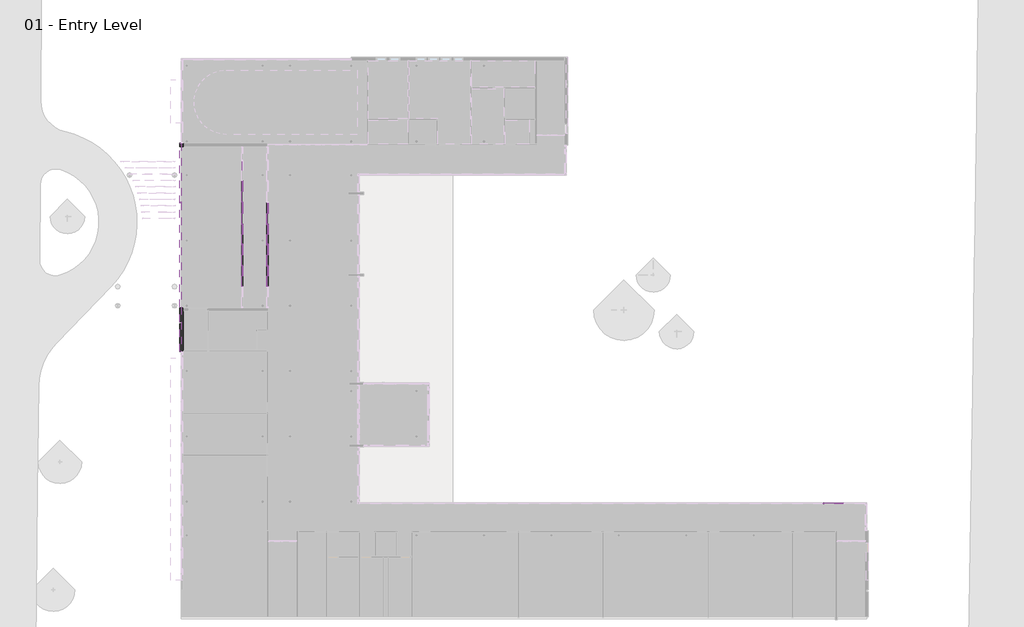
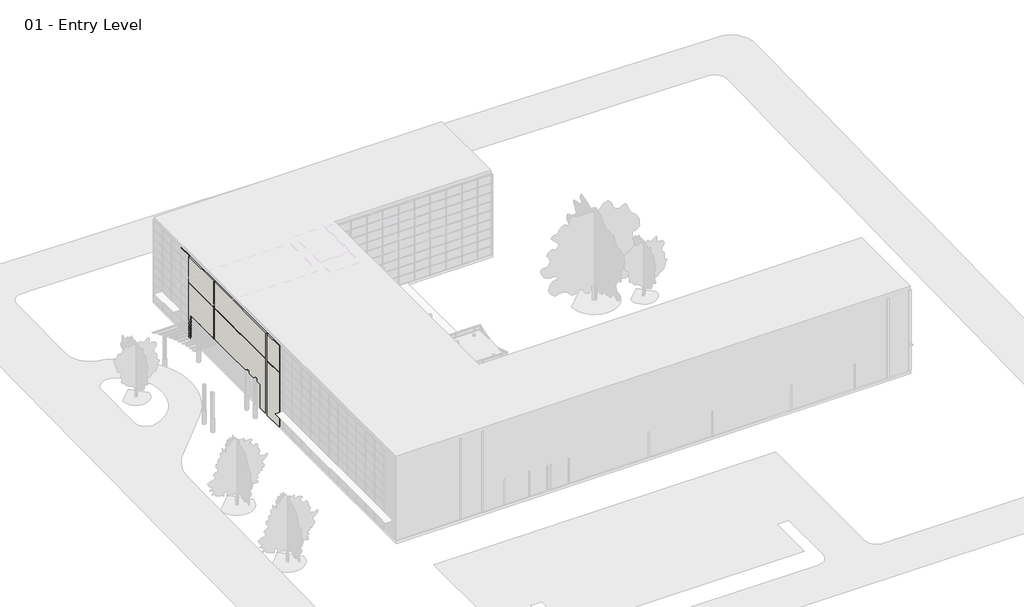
# One storey, part 22 of 34: 75 members, 36 plates, 3 doors, 2 proxies, 1 wall.
"""IFC4 building model written with IfcOpenShell, lengths in millimetres."""

from ifc_helpers import new_model, si_unit, frame, origin, place, context, project, spatial, polyline, outline, extrude, faceted_brep, transform, mapped, element, save
from components import curtain_wall_dbl_glass_curtain_wall_dbl_glass_d7d74fe3, member_2b49869a, member_18e22e2d, member_9e90ae50, member_391b434c, member_995c57f6, member_5d67b9fc, member_0a82c195, member_a6658832, member_b37ae9b7, member_f95d5bf5, member_ec52078f, system_panel_glazed_1b9d6098, system_panel_glazed_70da479d, system_panel_glazed_c64d999e, system_panel_glazed_ebbf215a, system_panel_glazed_d3a4a7cd, system_panel_glazed_76019dd7, system_panel_glazed_96e4dd87, system_panel_glazed_3ba8046e, system_panel_glazed_56110c51, system_panel_glazed_266ebcb8

model = new_model("IFC4")

# Units and contexts
model_context = context("Model", 3, world=origin())
ifc_project = project(units=[si_unit("LENGTHUNIT", "METRE", prefix="MILLI")], contexts=[model_context])

# Site, building, storey
site = spatial("IfcSite", under=ifc_project)
building = spatial("IfcBuilding", under=site)
storey = spatial("IfcBuildingStorey", under=building, Name="01 - Entry Level", Elevation=0.0)

# Proxies
placement = place(None, origin())
element("IfcBuildingElementProxy", 1, Name="Reveal", ObjectType="Reveal", at=placement, inside=storey, context=model_context, shape_type="SweptSolid", body=[
    extrude(outline(polyline([(-27.6542524, 45735.8), (124.7457476, 45735.8), (124.7457476, 25631.7), (-27.6542524, 25631.7), (-27.6542524, 45735.8)])), frame((0.0, 0.0, 7315.2), z_axis=(0.0, 0.0, 1.0), x_axis=(1.0, 0.0, 0.0)), (0.0, 0.0, 1.0), 152.4),
])
element("IfcBuildingElementProxy", 2, Name="Reveal", ObjectType="Reveal", at=placement, inside=storey, context=model_context, shape_type="SweptSolid", body=[
    extrude(outline(polyline([(-58.1342524, 40097.0), (124.7457476, 40097.0), (124.7457476, 39944.6), (-58.1342524, 39944.6), (-58.1342524, 40097.0)])), frame((0.0, 0.0, 3200.4), z_axis=(0.0, 0.0, 1.0), x_axis=(1.0, 0.0, 0.0)), (0.0, 0.0, 1.0), 7772.4),
])

# Doors
curtain_wall_dbl_glass_curtain_wall_dbl_glass_shape = curtain_wall_dbl_glass_curtain_wall_dbl_glass_d7d74fe3(model_context)
element("IfcDoor", 3, ObjectType="Curtain Wall Dbl Glass : Curtain Wall Dbl Glass", at=placement, inside=storey, context=model_context, shape_type="MappedRepresentation", body=[
    mapped(curtain_wall_dbl_glass_curtain_wall_dbl_glass_shape, transform((5982.6207476, 38976.225, 0.0), x_axis=(0.0, 1.0, 0.0), y_axis=(-1.0, 0.0, 0.0), z_axis=(0.0, 0.0, 1.0))),
])
element("IfcDoor", 4, ObjectType="Curtain Wall Dbl Glass : Curtain Wall Dbl Glass", at=placement, inside=storey, context=model_context, shape_type="MappedRepresentation", body=[
    mapped(curtain_wall_dbl_glass_curtain_wall_dbl_glass_shape, transform((5982.6207476, 41071.725, 0.0), x_axis=(0.0, 1.0, 0.0), y_axis=(-1.0, 0.0, 0.0), z_axis=(0.0, 0.0, 1.0))),
])
element("IfcDoor", 5, ObjectType="Curtain Wall Dbl Glass : Curtain Wall Dbl Glass", at=placement, inside=storey, context=model_context, shape_type="MappedRepresentation", body=[
    mapped(curtain_wall_dbl_glass_curtain_wall_dbl_glass_shape, transform((8421.0207476, 38976.225, 0.0), x_axis=(0.0, 1.0, 0.0), y_axis=(-1.0, 0.0, 0.0), z_axis=(0.0, 0.0, 1.0))),
])

# Members
member_shape = member_2b49869a(model_context)
element("IfcMember", 6, ObjectType="Rectangular Mullion : 2.5\" x 5\" rectangular", at=placement, inside=storey, context=model_context, shape_type="MappedRepresentation", body=[
    mapped(member_shape, transform((62040.4207476, 11001.3, 9753.6), x_axis=(-1.0, 0.0, 0.0), y_axis=(0.0, 1.0, 0.0), z_axis=(0.0, 0.0, -1.0))),
])
member_2_shape = member_18e22e2d(model_context)
element("IfcMember", 7, ObjectType="Rectangular Mullion : 2.5\" x 5\" rectangular", at=placement, inside=storey, context=model_context, shape_type="MappedRepresentation", body=[
    mapped(member_2_shape, transform((5982.6207476, 33927.975, 2438.4), x_axis=(0.0, 1.0, 0.0), y_axis=(1.0, 0.0, 0.0), z_axis=(0.0, 0.0, -1.0))),
])
element("IfcMember", 8, ObjectType="Rectangular Mullion : 2.5\" x 5\" rectangular", at=placement, inside=storey, context=model_context, shape_type="MappedRepresentation", body=[
    mapped(member_2_shape, transform((5982.6207476, 35959.975, 2438.4), x_axis=(0.0, 1.0, 0.0), y_axis=(1.0, 0.0, 0.0), z_axis=(0.0, 0.0, -1.0))),
])
element("IfcMember", 9, ObjectType="Rectangular Mullion : 2.5\" x 5\" rectangular", at=placement, inside=storey, context=model_context, shape_type="MappedRepresentation", body=[
    mapped(member_2_shape, transform((5982.6207476, 37928.475, 2438.4), x_axis=(0.0, 1.0, 0.0), y_axis=(1.0, 0.0, 0.0), z_axis=(0.0, 0.0, -1.0))),
])
element("IfcMember", 10, ObjectType="Rectangular Mullion : 2.5\" x 5\" rectangular", at=placement, inside=storey, context=model_context, shape_type="MappedRepresentation", body=[
    mapped(member_2_shape, transform((5982.6207476, 40023.975, 2438.4), x_axis=(0.0, 1.0, 0.0), y_axis=(1.0, 0.0, 0.0), z_axis=(0.0, 0.0, -1.0))),
])
element("IfcMember", 11, ObjectType="Rectangular Mullion : 2.5\" x 5\" rectangular", at=placement, inside=storey, context=model_context, shape_type="MappedRepresentation", body=[
    mapped(member_2_shape, transform((5982.6207476, 42119.475, 2438.4), x_axis=(0.0, 1.0, 0.0), y_axis=(1.0, 0.0, 0.0), z_axis=(0.0, 0.0, -1.0))),
])
element("IfcMember", 12, ObjectType="Rectangular Mullion : 2.5\" x 5\" rectangular", at=placement, inside=storey, context=model_context, shape_type="MappedRepresentation", body=[
    mapped(member_2_shape, transform((8421.0207476, 33927.975, 2438.4), x_axis=(0.0, 1.0, 0.0), y_axis=(1.0, 0.0, 0.0), z_axis=(0.0, 0.0, -1.0))),
])
element("IfcMember", 13, ObjectType="Rectangular Mullion : 2.5\" x 5\" rectangular", at=placement, inside=storey, context=model_context, shape_type="MappedRepresentation", body=[
    mapped(member_2_shape, transform((8421.0207476, 35959.975, 2438.4), x_axis=(0.0, 1.0, 0.0), y_axis=(1.0, 0.0, 0.0), z_axis=(0.0, 0.0, -1.0))),
])
element("IfcMember", 14, ObjectType="Rectangular Mullion : 2.5\" x 5\" rectangular", at=placement, inside=storey, context=model_context, shape_type="MappedRepresentation", body=[
    mapped(member_2_shape, transform((8421.0207476, 37928.475, 2438.4), x_axis=(0.0, 1.0, 0.0), y_axis=(1.0, 0.0, 0.0), z_axis=(0.0, 0.0, -1.0))),
])
member_3_shape = member_9e90ae50(model_context)
element("IfcMember", 15, ObjectType="Rectangular Mullion : 2.5\" x 5\" rectangular", at=placement, inside=storey, context=model_context, shape_type="MappedRepresentation", body=[
    mapped(member_3_shape, transform((62072.1707476, 11001.3, 9753.6), x_axis=(0.0, 0.0, 1.0), y_axis=(0.0, 1.0, 0.0), z_axis=(-1.0, 0.0, 0.0))),
])
element("IfcMember", 16, ObjectType="Rectangular Mullion : 2.5\" x 5\" rectangular", at=placement, inside=storey, context=model_context, shape_type="MappedRepresentation", body=[
    mapped(member_shape, transform((62040.4207476, 11001.3, 0.0), x_axis=(-1.0, 0.0, 0.0), y_axis=(0.0, 1.0, 0.0), z_axis=(0.0, 0.0, -1.0))),
])
element("IfcMember", 17, ObjectType="Rectangular Mullion : 2.5\" x 5\" rectangular", at=placement, inside=storey, context=model_context, shape_type="MappedRepresentation", body=[
    mapped(member_shape, transform((62040.4207476, 11001.3, 1219.2), x_axis=(-1.0, 0.0, 0.0), y_axis=(0.0, 1.0, 0.0), z_axis=(0.0, 0.0, -1.0))),
])
element("IfcMember", 18, ObjectType="Rectangular Mullion : 2.5\" x 5\" rectangular", at=placement, inside=storey, context=model_context, shape_type="MappedRepresentation", body=[
    mapped(member_shape, transform((62040.4207476, 11001.3, 2438.4), x_axis=(-1.0, 0.0, 0.0), y_axis=(0.0, 1.0, 0.0), z_axis=(0.0, 0.0, -1.0))),
])
element("IfcMember", 19, ObjectType="Rectangular Mullion : 2.5\" x 5\" rectangular", at=placement, inside=storey, context=model_context, shape_type="MappedRepresentation", body=[
    mapped(member_shape, transform((62040.4207476, 11001.3, 3657.6), x_axis=(-1.0, 0.0, 0.0), y_axis=(0.0, 1.0, 0.0), z_axis=(0.0, 0.0, -1.0))),
])
element("IfcMember", 20, ObjectType="Rectangular Mullion : 2.5\" x 5\" rectangular", at=placement, inside=storey, context=model_context, shape_type="MappedRepresentation", body=[
    mapped(member_shape, transform((62040.4207476, 11001.3, 4876.8), x_axis=(-1.0, 0.0, 0.0), y_axis=(0.0, 1.0, 0.0), z_axis=(0.0, 0.0, -1.0))),
])
element("IfcMember", 21, ObjectType="Rectangular Mullion : 2.5\" x 5\" rectangular", at=placement, inside=storey, context=model_context, shape_type="MappedRepresentation", body=[
    mapped(member_shape, transform((62040.4207476, 11001.3, 6096.0), x_axis=(-1.0, 0.0, 0.0), y_axis=(0.0, 1.0, 0.0), z_axis=(0.0, 0.0, -1.0))),
])
element("IfcMember", 22, ObjectType="Rectangular Mullion : 2.5\" x 5\" rectangular", at=placement, inside=storey, context=model_context, shape_type="MappedRepresentation", body=[
    mapped(member_shape, transform((62040.4207476, 11001.3, 7315.2), x_axis=(-1.0, 0.0, 0.0), y_axis=(0.0, 1.0, 0.0), z_axis=(0.0, 0.0, -1.0))),
])
element("IfcMember", 23, ObjectType="Rectangular Mullion : 2.5\" x 5\" rectangular", at=placement, inside=storey, context=model_context, shape_type="MappedRepresentation", body=[
    mapped(member_shape, transform((62040.4207476, 11001.3, 8534.4), x_axis=(-1.0, 0.0, 0.0), y_axis=(0.0, 1.0, 0.0), z_axis=(0.0, 0.0, -1.0))),
])
member_4_shape = member_391b434c(model_context)
element("IfcMember", 24, ObjectType="Rectangular Mullion : 2.5\" x 5\" rectangular", at=placement, inside=storey, context=model_context, shape_type="MappedRepresentation", body=[
    mapped(member_4_shape, transform((5982.6207476, 33896.225, 3403.6), x_axis=(0.0, 0.0, 1.0), y_axis=(1.0, 0.0, 0.0), z_axis=(0.0, 1.0, 0.0))),
])
element("IfcMember", 25, ObjectType="Rectangular Mullion : 2.5\" x 5\" rectangular", at=placement, inside=storey, context=model_context, shape_type="MappedRepresentation", body=[
    mapped(member_4_shape, transform((5982.6207476, 35928.225, 3403.6), x_axis=(0.0, 0.0, 1.0), y_axis=(1.0, 0.0, 0.0), z_axis=(0.0, 1.0, 0.0))),
])
element("IfcMember", 26, ObjectType="Rectangular Mullion : 2.5\" x 5\" rectangular", at=placement, inside=storey, context=model_context, shape_type="MappedRepresentation", body=[
    mapped(member_4_shape, transform((8421.0207476, 33896.225, 3403.6), x_axis=(0.0, 0.0, 1.0), y_axis=(1.0, 0.0, 0.0), z_axis=(0.0, 1.0, 0.0))),
])
element("IfcMember", 27, ObjectType="Rectangular Mullion : 2.5\" x 5\" rectangular", at=placement, inside=storey, context=model_context, shape_type="MappedRepresentation", body=[
    mapped(member_4_shape, transform((8421.0207476, 35928.225, 3403.6), x_axis=(0.0, 0.0, 1.0), y_axis=(1.0, 0.0, 0.0), z_axis=(0.0, 1.0, 0.0))),
])
element("IfcMember", 28, ObjectType="Rectangular Mullion : 2.5\" x 5\" rectangular", at=placement, inside=storey, context=model_context, shape_type="MappedRepresentation", body=[
    mapped(member_4_shape, transform((5982.6207476, 33959.725, 0.0), x_axis=(0.0, 0.0, -1.0), y_axis=(1.0, 0.0, 0.0), z_axis=(0.0, -1.0, 0.0))),
])
element("IfcMember", 29, ObjectType="Rectangular Mullion : 2.5\" x 5\" rectangular", at=placement, inside=storey, context=model_context, shape_type="MappedRepresentation", body=[
    mapped(member_4_shape, transform((8421.0207476, 33959.725, 0.0), x_axis=(0.0, 0.0, -1.0), y_axis=(1.0, 0.0, 0.0), z_axis=(0.0, -1.0, 0.0))),
])
element("IfcMember", 30, ObjectType="Rectangular Mullion : 2.5\" x 5\" rectangular", at=placement, inside=storey, context=model_context, shape_type="MappedRepresentation", body=[
    mapped(member_3_shape, transform((5982.6207476, 33896.225, 1219.2), x_axis=(0.0, 0.0, 1.0), y_axis=(1.0, 0.0, 0.0), z_axis=(0.0, 1.0, 0.0))),
])
element("IfcMember", 31, ObjectType="Rectangular Mullion : 2.5\" x 5\" rectangular", at=placement, inside=storey, context=model_context, shape_type="MappedRepresentation", body=[
    mapped(member_3_shape, transform((5982.6207476, 35928.225, 1219.2), x_axis=(0.0, 0.0, 1.0), y_axis=(1.0, 0.0, 0.0), z_axis=(0.0, 1.0, 0.0))),
])
element("IfcMember", 32, ObjectType="Rectangular Mullion : 2.5\" x 5\" rectangular", at=placement, inside=storey, context=model_context, shape_type="MappedRepresentation", body=[
    mapped(member_3_shape, transform((5982.6207476, 33896.225, 2438.4), x_axis=(0.0, 0.0, 1.0), y_axis=(1.0, 0.0, 0.0), z_axis=(0.0, 1.0, 0.0))),
])
element("IfcMember", 33, ObjectType="Rectangular Mullion : 2.5\" x 5\" rectangular", at=placement, inside=storey, context=model_context, shape_type="MappedRepresentation", body=[
    mapped(member_3_shape, transform((5982.6207476, 35928.225, 2438.4), x_axis=(0.0, 0.0, 1.0), y_axis=(1.0, 0.0, 0.0), z_axis=(0.0, 1.0, 0.0))),
])
element("IfcMember", 34, ObjectType="Rectangular Mullion : 2.5\" x 5\" rectangular", at=placement, inside=storey, context=model_context, shape_type="MappedRepresentation", body=[
    mapped(member_3_shape, transform((8421.0207476, 33896.225, 1219.2), x_axis=(0.0, 0.0, 1.0), y_axis=(1.0, 0.0, 0.0), z_axis=(0.0, 1.0, 0.0))),
])
element("IfcMember", 35, ObjectType="Rectangular Mullion : 2.5\" x 5\" rectangular", at=placement, inside=storey, context=model_context, shape_type="MappedRepresentation", body=[
    mapped(member_3_shape, transform((8421.0207476, 35928.225, 1219.2), x_axis=(0.0, 0.0, 1.0), y_axis=(1.0, 0.0, 0.0), z_axis=(0.0, 1.0, 0.0))),
])
element("IfcMember", 36, ObjectType="Rectangular Mullion : 2.5\" x 5\" rectangular", at=placement, inside=storey, context=model_context, shape_type="MappedRepresentation", body=[
    mapped(member_3_shape, transform((8421.0207476, 33896.225, 2438.4), x_axis=(0.0, 0.0, 1.0), y_axis=(1.0, 0.0, 0.0), z_axis=(0.0, 1.0, 0.0))),
])
element("IfcMember", 37, ObjectType="Rectangular Mullion : 2.5\" x 5\" rectangular", at=placement, inside=storey, context=model_context, shape_type="MappedRepresentation", body=[
    mapped(member_3_shape, transform((8421.0207476, 35928.225, 2438.4), x_axis=(0.0, 0.0, 1.0), y_axis=(1.0, 0.0, 0.0), z_axis=(0.0, 1.0, 0.0))),
])
element("IfcMember", 38, ObjectType="Rectangular Mullion : 2.5\" x 5\" rectangular", at=placement, inside=storey, context=model_context, shape_type="MappedRepresentation", body=[
    mapped(member_shape, transform((5982.6207476, 33927.975, 0.0), x_axis=(0.0, 1.0, 0.0), y_axis=(1.0, 0.0, 0.0), z_axis=(0.0, 0.0, -1.0))),
])
element("IfcMember", 39, ObjectType="Rectangular Mullion : 2.5\" x 5\" rectangular", at=placement, inside=storey, context=model_context, shape_type="MappedRepresentation", body=[
    mapped(member_shape, transform((5982.6207476, 35959.975, 0.0), x_axis=(0.0, 1.0, 0.0), y_axis=(1.0, 0.0, 0.0), z_axis=(0.0, 0.0, -1.0))),
])
element("IfcMember", 40, ObjectType="Rectangular Mullion : 2.5\" x 5\" rectangular", at=placement, inside=storey, context=model_context, shape_type="MappedRepresentation", body=[
    mapped(member_shape, transform((5982.6207476, 37928.475, 0.0), x_axis=(0.0, 1.0, 0.0), y_axis=(1.0, 0.0, 0.0), z_axis=(0.0, 0.0, -1.0))),
])
element("IfcMember", 41, ObjectType="Rectangular Mullion : 2.5\" x 5\" rectangular", at=placement, inside=storey, context=model_context, shape_type="MappedRepresentation", body=[
    mapped(member_shape, transform((5982.6207476, 42119.475, 0.0), x_axis=(0.0, 1.0, 0.0), y_axis=(1.0, 0.0, 0.0), z_axis=(0.0, 0.0, -1.0))),
])
element("IfcMember", 42, ObjectType="Rectangular Mullion : 2.5\" x 5\" rectangular", at=placement, inside=storey, context=model_context, shape_type="MappedRepresentation", body=[
    mapped(member_shape, transform((8421.0207476, 33927.975, 0.0), x_axis=(0.0, 1.0, 0.0), y_axis=(1.0, 0.0, 0.0), z_axis=(0.0, 0.0, -1.0))),
])
element("IfcMember", 43, ObjectType="Rectangular Mullion : 2.5\" x 5\" rectangular", at=placement, inside=storey, context=model_context, shape_type="MappedRepresentation", body=[
    mapped(member_shape, transform((8421.0207476, 35959.975, 0.0), x_axis=(0.0, 1.0, 0.0), y_axis=(1.0, 0.0, 0.0), z_axis=(0.0, 0.0, -1.0))),
])
element("IfcMember", 44, ObjectType="Rectangular Mullion : 2.5\" x 5\" rectangular", at=placement, inside=storey, context=model_context, shape_type="MappedRepresentation", body=[
    mapped(member_shape, transform((8421.0207476, 37928.475, 0.0), x_axis=(0.0, 1.0, 0.0), y_axis=(1.0, 0.0, 0.0), z_axis=(0.0, 0.0, -1.0))),
])
element("IfcMember", 45, ObjectType="Rectangular Mullion : 2.5\" x 5\" rectangular", at=placement, inside=storey, context=model_context, shape_type="MappedRepresentation", body=[
    mapped(member_shape, transform((5982.6207476, 40023.975, 0.0), x_axis=(0.0, 1.0, 0.0), y_axis=(1.0, 0.0, 0.0), z_axis=(0.0, 0.0, -1.0))),
])
member_5_shape = member_995c57f6(model_context)
element("IfcMember", 46, ObjectType="Rectangular Mullion : 2.5\" x 5\" rectangular", at=placement, inside=storey, context=model_context, shape_type="MappedRepresentation", body=[
    mapped(member_5_shape, transform((178.7207476, 45799.3, 10972.8), x_axis=(0.0, 0.0, 1.0), y_axis=(-1.0, 0.0, 0.0), z_axis=(0.0, -1.0, 0.0))),
])
member_6_shape = member_5d67b9fc(model_context)
element("IfcMember", 47, ObjectType="Rectangular Mullion : 2.5\" x 5\" rectangular", at=placement, inside=storey, context=model_context, shape_type="MappedRepresentation", body=[
    mapped(member_6_shape, transform((5982.6207476, 37928.475, 2165.35), x_axis=(0.0, 1.0, 0.0), y_axis=(1.0, 0.0, 0.0), z_axis=(0.0, 0.0, -1.0))),
])
element("IfcMember", 48, ObjectType="Rectangular Mullion : 2.5\" x 5\" rectangular", at=placement, inside=storey, context=model_context, shape_type="MappedRepresentation", body=[
    mapped(member_6_shape, transform((5982.6207476, 40023.975, 2165.35), x_axis=(0.0, 1.0, 0.0), y_axis=(1.0, 0.0, 0.0), z_axis=(0.0, 0.0, -1.0))),
])
element("IfcMember", 49, ObjectType="Rectangular Mullion : 2.5\" x 5\" rectangular", at=placement, inside=storey, context=model_context, shape_type="MappedRepresentation", body=[
    mapped(member_6_shape, transform((5982.6207476, 42119.475, 2165.35), x_axis=(0.0, 1.0, 0.0), y_axis=(1.0, 0.0, 0.0), z_axis=(0.0, 0.0, -1.0))),
])
element("IfcMember", 50, ObjectType="Rectangular Mullion : 2.5\" x 5\" rectangular", at=placement, inside=storey, context=model_context, shape_type="MappedRepresentation", body=[
    mapped(member_6_shape, transform((8421.0207476, 37928.475, 2165.35), x_axis=(0.0, 1.0, 0.0), y_axis=(1.0, 0.0, 0.0), z_axis=(0.0, 0.0, -1.0))),
])
element("IfcMember", 51, ObjectType="Rectangular Mullion : 2.5\" x 5\" rectangular", at=placement, inside=storey, context=model_context, shape_type="MappedRepresentation", body=[
    mapped(member_6_shape, transform((5982.6207476, 33927.975, 2165.35), x_axis=(0.0, 1.0, 0.0), y_axis=(1.0, 0.0, 0.0), z_axis=(0.0, 0.0, -1.0))),
])
element("IfcMember", 52, ObjectType="Rectangular Mullion : 2.5\" x 5\" rectangular", at=placement, inside=storey, context=model_context, shape_type="MappedRepresentation", body=[
    mapped(member_6_shape, transform((5982.6207476, 35959.975, 2165.35), x_axis=(0.0, 1.0, 0.0), y_axis=(1.0, 0.0, 0.0), z_axis=(0.0, 0.0, -1.0))),
])
element("IfcMember", 53, ObjectType="Rectangular Mullion : 2.5\" x 5\" rectangular", at=placement, inside=storey, context=model_context, shape_type="MappedRepresentation", body=[
    mapped(member_6_shape, transform((8421.0207476, 33927.975, 2165.35), x_axis=(0.0, 1.0, 0.0), y_axis=(1.0, 0.0, 0.0), z_axis=(0.0, 0.0, -1.0))),
])
element("IfcMember", 54, ObjectType="Rectangular Mullion : 2.5\" x 5\" rectangular", at=placement, inside=storey, context=model_context, shape_type="MappedRepresentation", body=[
    mapped(member_6_shape, transform((8421.0207476, 35959.975, 2165.35), x_axis=(0.0, 1.0, 0.0), y_axis=(1.0, 0.0, 0.0), z_axis=(0.0, 0.0, -1.0))),
])
member_7_shape = member_0a82c195(model_context)
element("IfcMember", 55, ObjectType="Rectangular Mullion : 2.5\" x 5\" rectangular", at=placement, inside=storey, context=model_context, shape_type="MappedRepresentation", body=[
    mapped(member_7_shape, transform((5982.6207476, 39992.225, 3403.6), x_axis=(0.0, 0.0, 1.0), y_axis=(1.0, 0.0, 0.0), z_axis=(0.0, 1.0, 0.0))),
])
element("IfcMember", 56, ObjectType="Rectangular Mullion : 2.5\" x 5\" rectangular", at=placement, inside=storey, context=model_context, shape_type="MappedRepresentation", body=[
    mapped(member_7_shape, transform((5982.6207476, 42087.725, 3403.6), x_axis=(0.0, 0.0, 1.0), y_axis=(1.0, 0.0, 0.0), z_axis=(0.0, 1.0, 0.0))),
])
element("IfcMember", 57, ObjectType="Rectangular Mullion : 2.5\" x 5\" rectangular", at=placement, inside=storey, context=model_context, shape_type="MappedRepresentation", body=[
    mapped(member_7_shape, transform((8421.0207476, 39992.225, 3403.6), x_axis=(0.0, 0.0, 1.0), y_axis=(1.0, 0.0, 0.0), z_axis=(0.0, 1.0, 0.0))),
])
member_8_shape = member_a6658832(model_context)
element("IfcMember", 58, ObjectType="Rectangular Mullion : 2.5\" x 5\" rectangular", at=placement, inside=storey, context=model_context, shape_type="MappedRepresentation", body=[
    mapped(member_8_shape, transform((5982.6207476, 37896.725, 3403.6), x_axis=(0.0, 0.0, 1.0), y_axis=(1.0, 0.0, 0.0), z_axis=(0.0, 1.0, 0.0))),
])
element("IfcMember", 59, ObjectType="Rectangular Mullion : 2.5\" x 5\" rectangular", at=placement, inside=storey, context=model_context, shape_type="MappedRepresentation", body=[
    mapped(member_8_shape, transform((8421.0207476, 37896.725, 3403.6), x_axis=(0.0, 0.0, 1.0), y_axis=(1.0, 0.0, 0.0), z_axis=(0.0, 1.0, 0.0))),
])
element("IfcMember", 60, ObjectType="Rectangular Mullion : 2.5\" x 5\" rectangular", at=placement, inside=storey, context=model_context, shape_type="MappedRepresentation", body=[
    mapped(member_8_shape, transform((5982.6207476, 35991.725, 0.0), x_axis=(0.0, 0.0, -1.0), y_axis=(1.0, 0.0, 0.0), z_axis=(0.0, -1.0, 0.0))),
])
element("IfcMember", 61, ObjectType="Rectangular Mullion : 2.5\" x 5\" rectangular", at=placement, inside=storey, context=model_context, shape_type="MappedRepresentation", body=[
    mapped(member_8_shape, transform((5982.6207476, 42151.225, 0.0), x_axis=(0.0, 0.0, -1.0), y_axis=(1.0, 0.0, 0.0), z_axis=(0.0, -1.0, 0.0))),
])
element("IfcMember", 62, ObjectType="Rectangular Mullion : 2.5\" x 5\" rectangular", at=placement, inside=storey, context=model_context, shape_type="MappedRepresentation", body=[
    mapped(member_8_shape, transform((8421.0207476, 35991.725, 0.0), x_axis=(0.0, 0.0, -1.0), y_axis=(1.0, 0.0, 0.0), z_axis=(0.0, -1.0, 0.0))),
])
member_9_shape = member_b37ae9b7(model_context)
element("IfcMember", 63, ObjectType="Rectangular Mullion : 2.5\" x 5\" rectangular", at=placement, inside=storey, context=model_context, shape_type="MappedRepresentation", body=[
    mapped(member_9_shape, transform((5982.6207476, 37896.725, 1219.2), x_axis=(0.0, 0.0, 1.0), y_axis=(1.0, 0.0, 0.0), z_axis=(0.0, 1.0, 0.0))),
])
element("IfcMember", 64, ObjectType="Rectangular Mullion : 2.5\" x 5\" rectangular", at=placement, inside=storey, context=model_context, shape_type="MappedRepresentation", body=[
    mapped(member_9_shape, transform((5982.6207476, 37896.725, 2438.4), x_axis=(0.0, 0.0, 1.0), y_axis=(1.0, 0.0, 0.0), z_axis=(0.0, 1.0, 0.0))),
])
element("IfcMember", 65, ObjectType="Rectangular Mullion : 2.5\" x 5\" rectangular", at=placement, inside=storey, context=model_context, shape_type="MappedRepresentation", body=[
    mapped(member_9_shape, transform((8421.0207476, 37896.725, 1219.2), x_axis=(0.0, 0.0, 1.0), y_axis=(1.0, 0.0, 0.0), z_axis=(0.0, 1.0, 0.0))),
])
element("IfcMember", 66, ObjectType="Rectangular Mullion : 2.5\" x 5\" rectangular", at=placement, inside=storey, context=model_context, shape_type="MappedRepresentation", body=[
    mapped(member_9_shape, transform((8421.0207476, 37896.725, 2438.4), x_axis=(0.0, 0.0, 1.0), y_axis=(1.0, 0.0, 0.0), z_axis=(0.0, 1.0, 0.0))),
])
member_10_shape = member_f95d5bf5(model_context)
element("IfcMember", 67, ObjectType="Rectangular Mullion : 2.5\" x 5\" rectangular", at=placement, inside=storey, context=model_context, shape_type="MappedRepresentation", body=[
    mapped(member_10_shape, transform((5982.6207476, 39992.225, 2438.4), x_axis=(0.0, 0.0, 1.0), y_axis=(1.0, 0.0, 0.0), z_axis=(0.0, 1.0, 0.0))),
])
element("IfcMember", 68, ObjectType="Rectangular Mullion : 2.5\" x 5\" rectangular", at=placement, inside=storey, context=model_context, shape_type="MappedRepresentation", body=[
    mapped(member_10_shape, transform((5982.6207476, 42087.725, 2438.4), x_axis=(0.0, 0.0, 1.0), y_axis=(1.0, 0.0, 0.0), z_axis=(0.0, 1.0, 0.0))),
])
element("IfcMember", 69, ObjectType="Rectangular Mullion : 2.5\" x 5\" rectangular", at=placement, inside=storey, context=model_context, shape_type="MappedRepresentation", body=[
    mapped(member_10_shape, transform((5982.6207476, 42087.725, 2165.35), x_axis=(0.0, 0.0, 1.0), y_axis=(1.0, 0.0, 0.0), z_axis=(0.0, 1.0, 0.0))),
])
element("IfcMember", 70, ObjectType="Rectangular Mullion : 2.5\" x 5\" rectangular", at=placement, inside=storey, context=model_context, shape_type="MappedRepresentation", body=[
    mapped(member_10_shape, transform((5982.6207476, 39992.225, 2165.35), x_axis=(0.0, 0.0, 1.0), y_axis=(1.0, 0.0, 0.0), z_axis=(0.0, 1.0, 0.0))),
])
element("IfcMember", 71, ObjectType="Rectangular Mullion : 2.5\" x 5\" rectangular", at=placement, inside=storey, context=model_context, shape_type="MappedRepresentation", body=[
    mapped(member_10_shape, transform((8421.0207476, 39992.225, 2438.4), x_axis=(0.0, 0.0, 1.0), y_axis=(1.0, 0.0, 0.0), z_axis=(0.0, 1.0, 0.0))),
])
element("IfcMember", 72, ObjectType="Rectangular Mullion : 2.5\" x 5\" rectangular", at=placement, inside=storey, context=model_context, shape_type="MappedRepresentation", body=[
    mapped(member_10_shape, transform((8421.0207476, 39992.225, 2165.35), x_axis=(0.0, 0.0, 1.0), y_axis=(1.0, 0.0, 0.0), z_axis=(0.0, 1.0, 0.0))),
])
member_11_shape = member_ec52078f(model_context)
element("IfcMember", 73, ObjectType="Rectangular Mullion : 2.5\" x 5\" rectangular", at=placement, inside=storey, context=model_context, shape_type="MappedRepresentation", body=[
    mapped(member_11_shape, transform((5982.6207476, 33927.975, 1219.2), x_axis=(0.0, 1.0, 0.0), y_axis=(1.0, 0.0, 0.0), z_axis=(0.0, 0.0, -1.0))),
])
element("IfcMember", 74, ObjectType="Rectangular Mullion : 2.5\" x 5\" rectangular", at=placement, inside=storey, context=model_context, shape_type="MappedRepresentation", body=[
    mapped(member_11_shape, transform((5982.6207476, 35959.975, 1219.2), x_axis=(0.0, 1.0, 0.0), y_axis=(1.0, 0.0, 0.0), z_axis=(0.0, 0.0, -1.0))),
])
element("IfcMember", 75, ObjectType="Rectangular Mullion : 2.5\" x 5\" rectangular", at=placement, inside=storey, context=model_context, shape_type="MappedRepresentation", body=[
    mapped(member_11_shape, transform((8421.0207476, 33927.975, 1219.2), x_axis=(0.0, 1.0, 0.0), y_axis=(1.0, 0.0, 0.0), z_axis=(0.0, 0.0, -1.0))),
])
element("IfcMember", 76, ObjectType="Rectangular Mullion : 2.5\" x 5\" rectangular", at=placement, inside=storey, context=model_context, shape_type="MappedRepresentation", body=[
    mapped(member_11_shape, transform((8421.0207476, 35959.975, 1219.2), x_axis=(0.0, 1.0, 0.0), y_axis=(1.0, 0.0, 0.0), z_axis=(0.0, 0.0, -1.0))),
])
element("IfcMember", 77, ObjectType="Rectangular Mullion : 2.5\" x 5\" rectangular", at=placement, inside=storey, context=model_context, shape_type="MappedRepresentation", body=[
    mapped(member_11_shape, transform((5982.6207476, 40023.975, 1219.2), x_axis=(0.0, 1.0, 0.0), y_axis=(1.0, 0.0, 0.0), z_axis=(0.0, 0.0, -1.0))),
])
element("IfcMember", 78, ObjectType="Rectangular Mullion : 2.5\" x 5\" rectangular", at=placement, inside=storey, context=model_context, shape_type="MappedRepresentation", body=[
    mapped(member_11_shape, transform((5982.6207476, 37928.475, 1219.2), x_axis=(0.0, 1.0, 0.0), y_axis=(1.0, 0.0, 0.0), z_axis=(0.0, 0.0, -1.0))),
])
element("IfcMember", 79, ObjectType="Rectangular Mullion : 2.5\" x 5\" rectangular", at=placement, inside=storey, context=model_context, shape_type="MappedRepresentation", body=[
    mapped(member_11_shape, transform((5982.6207476, 42119.475, 1219.2), x_axis=(0.0, 1.0, 0.0), y_axis=(1.0, 0.0, 0.0), z_axis=(0.0, 0.0, -1.0))),
])
element("IfcMember", 80, ObjectType="Rectangular Mullion : 2.5\" x 5\" rectangular", at=placement, inside=storey, context=model_context, shape_type="MappedRepresentation", body=[
    mapped(member_11_shape, transform((8421.0207476, 37928.475, 1219.2), x_axis=(0.0, 1.0, 0.0), y_axis=(1.0, 0.0, 0.0), z_axis=(0.0, 0.0, -1.0))),
])

# Plates
system_panel_glazed_shape = system_panel_glazed_1b9d6098(model_context)
element("IfcPlate", 81, ObjectType="System Panel : Glazed", at=placement, inside=storey, context=model_context, shape_type="MappedRepresentation", body=[
    mapped(system_panel_glazed_shape, transform((63056.4207476, 11001.3, 63.5), x_axis=(-1.0, 0.0, 0.0), y_axis=(0.0, -1.0, 0.0), z_axis=(0.0, 0.0, 1.0))),
])
element("IfcPlate", 82, ObjectType="System Panel : Glazed", at=placement, inside=storey, context=model_context, shape_type="MappedRepresentation", body=[
    mapped(system_panel_glazed_shape, transform((63056.4207476, 11001.3, 9785.35), x_axis=(-1.0, 0.0, 0.0), y_axis=(0.0, -1.0, 0.0), z_axis=(0.0, 0.0, 1.0))),
])
system_panel_glazed_2_shape = system_panel_glazed_70da479d(model_context)
element("IfcPlate", 83, ObjectType="System Panel : Glazed", at=placement, inside=storey, context=model_context, shape_type="MappedRepresentation", body=[
    mapped(system_panel_glazed_2_shape, transform((63056.4207476, 11001.3, 1250.95), x_axis=(-1.0, 0.0, 0.0), y_axis=(0.0, -1.0, 0.0), z_axis=(0.0, 0.0, 1.0))),
])
element("IfcPlate", 84, ObjectType="System Panel : Glazed", at=placement, inside=storey, context=model_context, shape_type="MappedRepresentation", body=[
    mapped(system_panel_glazed_2_shape, transform((63056.4207476, 11001.3, 2470.15), x_axis=(-1.0, 0.0, 0.0), y_axis=(0.0, -1.0, 0.0), z_axis=(0.0, 0.0, 1.0))),
])
element("IfcPlate", 85, ObjectType="System Panel : Glazed", at=placement, inside=storey, context=model_context, shape_type="MappedRepresentation", body=[
    mapped(system_panel_glazed_2_shape, transform((63056.4207476, 11001.3, 3689.35), x_axis=(-1.0, 0.0, 0.0), y_axis=(0.0, -1.0, 0.0), z_axis=(0.0, 0.0, 1.0))),
])
element("IfcPlate", 86, ObjectType="System Panel : Glazed", at=placement, inside=storey, context=model_context, shape_type="MappedRepresentation", body=[
    mapped(system_panel_glazed_2_shape, transform((63056.4207476, 11001.3, 4908.55), x_axis=(-1.0, 0.0, 0.0), y_axis=(0.0, -1.0, 0.0), z_axis=(0.0, 0.0, 1.0))),
])
element("IfcPlate", 87, ObjectType="System Panel : Glazed", at=placement, inside=storey, context=model_context, shape_type="MappedRepresentation", body=[
    mapped(system_panel_glazed_2_shape, transform((63056.4207476, 11001.3, 6127.75), x_axis=(-1.0, 0.0, 0.0), y_axis=(0.0, -1.0, 0.0), z_axis=(0.0, 0.0, 1.0))),
])
element("IfcPlate", 88, ObjectType="System Panel : Glazed", at=placement, inside=storey, context=model_context, shape_type="MappedRepresentation", body=[
    mapped(system_panel_glazed_2_shape, transform((63056.4207476, 11001.3, 7346.95), x_axis=(-1.0, 0.0, 0.0), y_axis=(0.0, -1.0, 0.0), z_axis=(0.0, 0.0, 1.0))),
])
element("IfcPlate", 89, ObjectType="System Panel : Glazed", at=placement, inside=storey, context=model_context, shape_type="MappedRepresentation", body=[
    mapped(system_panel_glazed_2_shape, transform((63056.4207476, 11001.3, 8566.15), x_axis=(-1.0, 0.0, 0.0), y_axis=(0.0, -1.0, 0.0), z_axis=(0.0, 0.0, 1.0))),
])
system_panel_glazed_3_shape = system_panel_glazed_c64d999e(model_context)
element("IfcPlate", 90, ObjectType="System Panel : Glazed", at=placement, inside=storey, context=model_context, shape_type="MappedRepresentation", body=[
    mapped(system_panel_glazed_3_shape, transform((5982.6207476, 32911.975, 63.5), x_axis=(0.0, 1.0, 0.0), y_axis=(-1.0, 0.0, 0.0), z_axis=(0.0, 0.0, 1.0))),
])
element("IfcPlate", 91, ObjectType="System Panel : Glazed", at=placement, inside=storey, context=model_context, shape_type="MappedRepresentation", body=[
    mapped(system_panel_glazed_3_shape, transform((5982.6207476, 34943.975, 63.5), x_axis=(0.0, 1.0, 0.0), y_axis=(-1.0, 0.0, 0.0), z_axis=(0.0, 0.0, 1.0))),
])
element("IfcPlate", 92, ObjectType="System Panel : Glazed", at=placement, inside=storey, context=model_context, shape_type="MappedRepresentation", body=[
    mapped(system_panel_glazed_3_shape, transform((8421.0207476, 32911.975, 63.5), x_axis=(0.0, 1.0, 0.0), y_axis=(-1.0, 0.0, 0.0), z_axis=(0.0, 0.0, 1.0))),
])
element("IfcPlate", 93, ObjectType="System Panel : Glazed", at=placement, inside=storey, context=model_context, shape_type="MappedRepresentation", body=[
    mapped(system_panel_glazed_3_shape, transform((8421.0207476, 34943.975, 63.5), x_axis=(0.0, 1.0, 0.0), y_axis=(-1.0, 0.0, 0.0), z_axis=(0.0, 0.0, 1.0))),
])
system_panel_glazed_4_shape = system_panel_glazed_ebbf215a(model_context)
element("IfcPlate", 94, ObjectType="System Panel : Glazed", at=placement, inside=storey, context=model_context, shape_type="MappedRepresentation", body=[
    mapped(system_panel_glazed_4_shape, transform((5982.6207476, 32911.975, 2470.15), x_axis=(0.0, 1.0, 0.0), y_axis=(-1.0, 0.0, 0.0), z_axis=(0.0, 0.0, 1.0))),
])
element("IfcPlate", 95, ObjectType="System Panel : Glazed", at=placement, inside=storey, context=model_context, shape_type="MappedRepresentation", body=[
    mapped(system_panel_glazed_4_shape, transform((5982.6207476, 34943.975, 2470.15), x_axis=(0.0, 1.0, 0.0), y_axis=(-1.0, 0.0, 0.0), z_axis=(0.0, 0.0, 1.0))),
])
element("IfcPlate", 96, ObjectType="System Panel : Glazed", at=placement, inside=storey, context=model_context, shape_type="MappedRepresentation", body=[
    mapped(system_panel_glazed_4_shape, transform((8421.0207476, 32911.975, 2470.15), x_axis=(0.0, 1.0, 0.0), y_axis=(-1.0, 0.0, 0.0), z_axis=(0.0, 0.0, 1.0))),
])
element("IfcPlate", 97, ObjectType="System Panel : Glazed", at=placement, inside=storey, context=model_context, shape_type="MappedRepresentation", body=[
    mapped(system_panel_glazed_4_shape, transform((8421.0207476, 34943.975, 2470.15), x_axis=(0.0, 1.0, 0.0), y_axis=(-1.0, 0.0, 0.0), z_axis=(0.0, 0.0, 1.0))),
])
system_panel_glazed_5_shape = system_panel_glazed_d3a4a7cd(model_context)
element("IfcPlate", 98, ObjectType="System Panel : Glazed", at=placement, inside=storey, context=model_context, shape_type="MappedRepresentation", body=[
    mapped(system_panel_glazed_5_shape, transform((5982.6207476, 36944.225, 63.5), x_axis=(0.0, 1.0, 0.0), y_axis=(-1.0, 0.0, 0.0), z_axis=(0.0, 0.0, 1.0))),
])
element("IfcPlate", 99, ObjectType="System Panel : Glazed", at=placement, inside=storey, context=model_context, shape_type="MappedRepresentation", body=[
    mapped(system_panel_glazed_5_shape, transform((5982.6207476, 43103.725, 63.5), x_axis=(0.0, 1.0, 0.0), y_axis=(-1.0, 0.0, 0.0), z_axis=(0.0, 0.0, 1.0))),
])
element("IfcPlate", 100, ObjectType="System Panel : Glazed", at=placement, inside=storey, context=model_context, shape_type="MappedRepresentation", body=[
    mapped(system_panel_glazed_5_shape, transform((8421.0207476, 36944.225, 63.5), x_axis=(0.0, 1.0, 0.0), y_axis=(-1.0, 0.0, 0.0), z_axis=(0.0, 0.0, 1.0))),
])
system_panel_glazed_6_shape = system_panel_glazed_76019dd7(model_context)
element("IfcPlate", 101, ObjectType="System Panel : Glazed", at=placement, inside=storey, context=model_context, shape_type="MappedRepresentation", body=[
    mapped(system_panel_glazed_6_shape, transform((5982.6207476, 38976.225, 2470.15), x_axis=(0.0, 1.0, 0.0), y_axis=(-1.0, 0.0, 0.0), z_axis=(0.0, 0.0, 1.0))),
])
element("IfcPlate", 102, ObjectType="System Panel : Glazed", at=placement, inside=storey, context=model_context, shape_type="MappedRepresentation", body=[
    mapped(system_panel_glazed_6_shape, transform((5982.6207476, 41071.725, 2470.15), x_axis=(0.0, 1.0, 0.0), y_axis=(-1.0, 0.0, 0.0), z_axis=(0.0, 0.0, 1.0))),
])
element("IfcPlate", 103, ObjectType="System Panel : Glazed", at=placement, inside=storey, context=model_context, shape_type="MappedRepresentation", body=[
    mapped(system_panel_glazed_6_shape, transform((8421.0207476, 38976.225, 2470.15), x_axis=(0.0, 1.0, 0.0), y_axis=(-1.0, 0.0, 0.0), z_axis=(0.0, 0.0, 1.0))),
])
system_panel_glazed_7_shape = system_panel_glazed_96e4dd87(model_context)
element("IfcPlate", 104, ObjectType="System Panel : Glazed", at=placement, inside=storey, context=model_context, shape_type="MappedRepresentation", body=[
    mapped(system_panel_glazed_7_shape, transform((5982.6207476, 36944.225, 2470.15), x_axis=(0.0, 1.0, 0.0), y_axis=(-1.0, 0.0, 0.0), z_axis=(0.0, 0.0, 1.0))),
])
element("IfcPlate", 105, ObjectType="System Panel : Glazed", at=placement, inside=storey, context=model_context, shape_type="MappedRepresentation", body=[
    mapped(system_panel_glazed_7_shape, transform((5982.6207476, 43103.725, 2470.15), x_axis=(0.0, 1.0, 0.0), y_axis=(-1.0, 0.0, 0.0), z_axis=(0.0, 0.0, 1.0))),
])
element("IfcPlate", 106, ObjectType="System Panel : Glazed", at=placement, inside=storey, context=model_context, shape_type="MappedRepresentation", body=[
    mapped(system_panel_glazed_7_shape, transform((8421.0207476, 36944.225, 2470.15), x_axis=(0.0, 1.0, 0.0), y_axis=(-1.0, 0.0, 0.0), z_axis=(0.0, 0.0, 1.0))),
])
system_panel_glazed_8_shape = system_panel_glazed_3ba8046e(model_context)
element("IfcPlate", 107, ObjectType="System Panel : Glazed", at=placement, inside=storey, context=model_context, shape_type="MappedRepresentation", body=[
    mapped(system_panel_glazed_8_shape, transform((5982.6207476, 32911.975, 1250.95), x_axis=(0.0, 1.0, 0.0), y_axis=(-1.0, 0.0, 0.0), z_axis=(0.0, 0.0, 1.0))),
])
element("IfcPlate", 108, ObjectType="System Panel : Glazed", at=placement, inside=storey, context=model_context, shape_type="MappedRepresentation", body=[
    mapped(system_panel_glazed_8_shape, transform((5982.6207476, 34943.975, 1250.95), x_axis=(0.0, 1.0, 0.0), y_axis=(-1.0, 0.0, 0.0), z_axis=(0.0, 0.0, 1.0))),
])
element("IfcPlate", 109, ObjectType="System Panel : Glazed", at=placement, inside=storey, context=model_context, shape_type="MappedRepresentation", body=[
    mapped(system_panel_glazed_8_shape, transform((8421.0207476, 32911.975, 1250.95), x_axis=(0.0, 1.0, 0.0), y_axis=(-1.0, 0.0, 0.0), z_axis=(0.0, 0.0, 1.0))),
])
element("IfcPlate", 110, ObjectType="System Panel : Glazed", at=placement, inside=storey, context=model_context, shape_type="MappedRepresentation", body=[
    mapped(system_panel_glazed_8_shape, transform((8421.0207476, 34943.975, 1250.95), x_axis=(0.0, 1.0, 0.0), y_axis=(-1.0, 0.0, 0.0), z_axis=(0.0, 0.0, 1.0))),
])
system_panel_glazed_9_shape = system_panel_glazed_56110c51(model_context)
element("IfcPlate", 111, ObjectType="System Panel : Glazed", at=placement, inside=storey, context=model_context, shape_type="MappedRepresentation", body=[
    mapped(system_panel_glazed_9_shape, transform((5982.6207476, 36944.225, 1250.95), x_axis=(0.0, 1.0, 0.0), y_axis=(-1.0, 0.0, 0.0), z_axis=(0.0, 0.0, 1.0))),
])
element("IfcPlate", 112, ObjectType="System Panel : Glazed", at=placement, inside=storey, context=model_context, shape_type="MappedRepresentation", body=[
    mapped(system_panel_glazed_9_shape, transform((5982.6207476, 43103.725, 1250.95), x_axis=(0.0, 1.0, 0.0), y_axis=(-1.0, 0.0, 0.0), z_axis=(0.0, 0.0, 1.0))),
])
element("IfcPlate", 113, ObjectType="System Panel : Glazed", at=placement, inside=storey, context=model_context, shape_type="MappedRepresentation", body=[
    mapped(system_panel_glazed_9_shape, transform((8421.0207476, 36944.225, 1250.95), x_axis=(0.0, 1.0, 0.0), y_axis=(-1.0, 0.0, 0.0), z_axis=(0.0, 0.0, 1.0))),
])
system_panel_glazed_10_shape = system_panel_glazed_266ebcb8(model_context)
element("IfcPlate", 114, ObjectType="System Panel : Glazed", at=placement, inside=storey, context=model_context, shape_type="MappedRepresentation", body=[
    mapped(system_panel_glazed_10_shape, transform((5982.6207476, 38976.225, 2197.1), x_axis=(0.0, 1.0, 0.0), y_axis=(-1.0, 0.0, 0.0), z_axis=(0.0, 0.0, 1.0))),
])
element("IfcPlate", 115, ObjectType="System Panel : Glazed", at=placement, inside=storey, context=model_context, shape_type="MappedRepresentation", body=[
    mapped(system_panel_glazed_10_shape, transform((5982.6207476, 41071.725, 2197.1), x_axis=(0.0, 1.0, 0.0), y_axis=(-1.0, 0.0, 0.0), z_axis=(0.0, 0.0, 1.0))),
])
element("IfcPlate", 116, ObjectType="System Panel : Glazed", at=placement, inside=storey, context=model_context, shape_type="MappedRepresentation", body=[
    mapped(system_panel_glazed_10_shape, transform((8421.0207476, 38976.225, 2197.1), x_axis=(0.0, 1.0, 0.0), y_axis=(-1.0, 0.0, 0.0), z_axis=(0.0, 0.0, 1.0))),
])

# Wall
element("IfcWall", 117, ObjectType="Exterior - EIFS on CMU", at=placement, inside=storey, context=model_context, shape_type="Brep", body=[
    faceted_brep([(-27.6542524, 45735.8, 0.0), (-27.6542524, 45427.825, 0.0), (-27.6542524, 45427.825, 3200.4), (-27.6542524, 40097.0, 3200.4), (-27.6542524, 40097.0, 7315.2), (-27.6542524, 45735.8, 7315.2), (-27.6542524, 29863.975, 3200.4), (-27.6542524, 29863.975, 0.0), (-27.6542524, 28514.6, 0.0), (-27.6542524, 28514.6, 7315.2), (-27.6542524, 39944.6, 7315.2), (-27.6542524, 39944.6, 3200.4), (-27.6542524, 25631.7, 7467.6), (-27.6542524, 25631.7, 10972.8), (-27.6542524, 28362.2, 10972.8), (-27.6542524, 28362.2, 7467.6), (-27.6542524, 25631.7, 0.0), (-27.6542524, 25631.7, 7315.2), (-27.6542524, 28362.2, 7315.2), (-27.6542524, 28362.2, 0.0), (-27.6542524, 45735.8, 10972.8), (-27.6542524, 45735.8, 7467.6), (-27.6542524, 40097.0, 7467.6), (-27.6542524, 40097.0, 10972.8), (-27.6542524, 39944.6, 10972.8), (-27.6542524, 39944.6, 7467.6), (-27.6542524, 28514.6, 7467.6), (-27.6542524, 28514.6, 10972.8), (280.3207476, 45735.8, 10972.8), (280.3207476, 41811.5, 10972.8), (280.3207476, 41684.5, 10972.8), (280.3207476, 33785.1, 10972.8), (280.3207476, 33658.1, 10972.8), (280.3207476, 28527.3, 10972.8), (280.3207476, 28400.3, 10972.8), (280.3207476, 25758.7, 10972.8), (280.3207476, 25631.7, 10972.8), (280.3207476, 25631.7, 7315.2), (280.3207476, 25631.7, 3403.6), (280.3207476, 25631.7, 0.0), (280.3207476, 25758.7, 0.0), (280.3207476, 29556.0, 0.0), (280.3207476, 29863.975, 0.0), (280.3207476, 29863.975, 3200.4), (280.3207476, 45427.825, 3200.4), (280.3207476, 45427.825, 0.0), (280.3207476, 45735.8, 0.0), (280.3207476, 45735.8, 3657.6), (124.7457476, 28362.2, 0.0), (124.7457476, 28514.6, 0.0), (124.7457476, 40097.0, 10972.8), (124.7457476, 39944.6, 10972.8), (124.7457476, 28514.6, 10972.8), (124.7457476, 28362.2, 10972.8), (124.7457476, 45735.8, 7315.2), (124.7457476, 45735.8, 7467.6), (124.7457476, 39944.6, 3200.4), (124.7457476, 40097.0, 3200.4), (124.7457476, 25631.7, 7467.6), (124.7457476, 25631.7, 7315.2), (124.7457476, 40097.0, 7467.6), (124.7457476, 28362.2, 7467.6), (124.7457476, 39944.6, 7467.6), (124.7457476, 28514.6, 7467.6), (124.7457476, 40097.0, 7315.2), (124.7457476, 39944.6, 7315.2), (124.7457476, 28514.6, 7315.2), (124.7457476, 28362.2, 7315.2)], [[[0, 1, 2, 3, 4, 5]], [[6, 7, 8, 9, 10, 11]], [[12, 13, 14, 15]], [[16, 17, 18, 19]], [[20, 21, 22, 23]], [[24, 25, 26, 27]], [[28, 29, 30, 31, 32, 33, 34, 35, 36, 37, 38, 39, 40, 41, 42, 43, 44, 45, 46, 47]], [[0, 46, 45, 1]], [[42, 41, 40, 39, 16, 19, 48, 49, 8, 7]], [[36, 35, 34, 33, 32, 31, 30, 29, 28, 20, 23, 50, 51, 24, 27, 52, 53, 14, 13]], [[28, 47, 46, 0, 5, 54, 55, 21, 20]], [[44, 43, 6, 11, 56, 57, 3, 2]], [[44, 2, 1, 45]], [[16, 39, 38, 37, 36, 13, 12, 58, 59, 17]], [[6, 43, 42, 7]], [[21, 55, 60, 22]], [[58, 12, 15, 61]], [[25, 62, 63, 26]], [[55, 54, 64, 57, 56, 65, 66, 49, 48, 67, 59, 58, 61, 53, 52, 63, 62, 51, 50, 60]], [[54, 5, 4, 64]], [[17, 59, 67, 18]], [[65, 10, 9, 66]], [[51, 62, 25, 24]], [[65, 56, 11, 10]], [[60, 50, 23, 22]], [[57, 64, 4, 3]], [[53, 61, 15, 14]], [[67, 48, 19, 18]], [[63, 52, 27, 26]], [[49, 66, 9, 8]]]),
])

save(model, "model.ifc")
